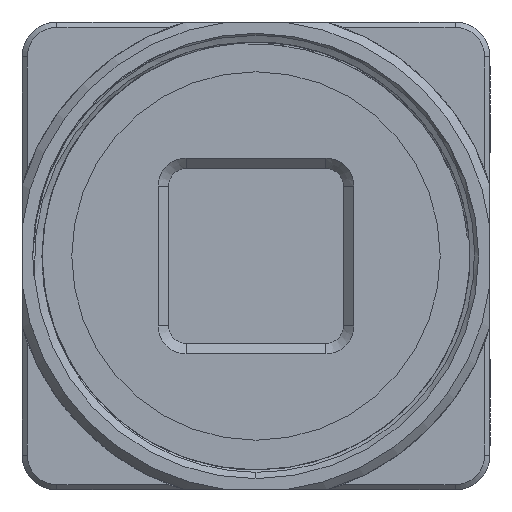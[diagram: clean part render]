
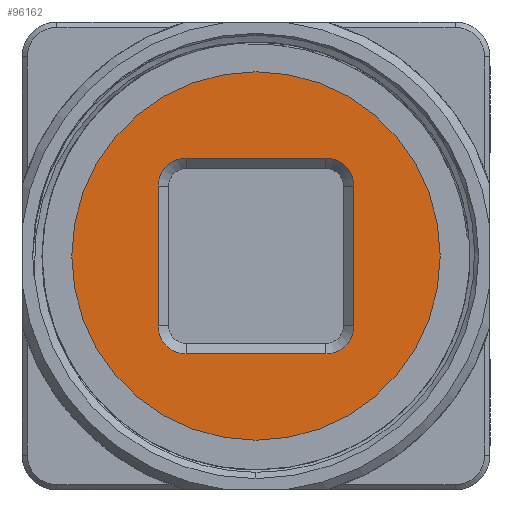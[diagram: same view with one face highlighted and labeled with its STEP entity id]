
A CAD part, front view. The second image highlights one B-rep face of the part: STEP entity #96162.
In plain terms, the highlighted planar face has unit normal (0, -1, 0).
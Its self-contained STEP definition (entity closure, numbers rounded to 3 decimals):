
#1266 = CIRCLE ( 'NONE', #103039, 1.6 ) ;
#2315 = AXIS2_PLACEMENT_3D ( 'NONE', #64695, #91915, #109449 ) ;
#3687 = VECTOR ( 'NONE', #6705, 1000. ) ;
#4219 = VERTEX_POINT ( 'NONE', #54388 ) ;
#6149 = LINE ( 'NONE', #99745, #67471 ) ;
#6268 = EDGE_CURVE ( 'NONE', #27583, #66752, #14510, .T. ) ;
#6422 = VECTOR ( 'NONE', #106423, 1000. ) ;
#6705 = DIRECTION ( 'NONE',  ( 1., 0., 0. ) ) ;
#6998 = CIRCLE ( 'NONE', #92220, 1.6 ) ;
#8875 = ORIENTED_EDGE ( 'NONE', *, *, #100132, .F. ) ;
#12325 = VERTEX_POINT ( 'NONE', #84675 ) ;
#12682 = PLANE ( 'NONE',  #89836 ) ;
#14371 = DIRECTION ( 'NONE',  ( 0., 0., -1. ) ) ;
#14510 = CIRCLE ( 'NONE', #40005, 1.6 ) ;
#14721 = VERTEX_POINT ( 'NONE', #86630 ) ;
#17920 = ORIENTED_EDGE ( 'NONE', *, *, #41329, .F. ) ;
#20125 = DIRECTION ( 'NONE',  ( 0., 0., -1. ) ) ;
#23545 = ORIENTED_EDGE ( 'NONE', *, *, #69799, .F. ) ;
#23835 = CARTESIAN_POINT ( 'NONE',  ( 0., 3.8, 0. ) ) ;
#24967 = DIRECTION ( 'NONE',  ( 0., -1., 0. ) ) ;
#25643 = CARTESIAN_POINT ( 'NONE',  ( -5.6, 3.8, 4. ) ) ;
#25660 = CARTESIAN_POINT ( 'NONE',  ( 5.6, 3.8, -4. ) ) ;
#25730 = ORIENTED_EDGE ( 'NONE', *, *, #43209, .F. ) ;
#26500 = CARTESIAN_POINT ( 'NONE',  ( 0., 3.8, 0. ) ) ;
#27414 = EDGE_LOOP ( 'NONE', ( #111833, #94259 ) ) ;
#27583 = VERTEX_POINT ( 'NONE', #97166 ) ;
#27997 = CARTESIAN_POINT ( 'NONE',  ( 4., 3.8, 5.6 ) ) ;
#33695 = ORIENTED_EDGE ( 'NONE', *, *, #6268, .F. ) ;
#34325 = CIRCLE ( 'NONE', #37969, 10.55 ) ;
#36213 = VERTEX_POINT ( 'NONE', #27997 ) ;
#37311 = CARTESIAN_POINT ( 'NONE',  ( 0., 3.8, 5.6 ) ) ;
#37800 = VERTEX_POINT ( 'NONE', #87459 ) ;
#37969 = AXIS2_PLACEMENT_3D ( 'NONE', #26500, #41834, #76476 ) ;
#39966 = ORIENTED_EDGE ( 'NONE', *, *, #95853, .F. ) ;
#40005 = AXIS2_PLACEMENT_3D ( 'NONE', #64668, #81678, #73742 ) ;
#41038 = DIRECTION ( 'NONE',  ( 0., 0., -1. ) ) ;
#41329 = EDGE_CURVE ( 'NONE', #14721, #62275, #1266, .T. ) ;
#41834 = DIRECTION ( 'NONE',  ( 0., -1., 0. ) ) ;
#42513 = CARTESIAN_POINT ( 'NONE',  ( -5.6, 3.8, -4. ) ) ;
#43209 = EDGE_CURVE ( 'NONE', #62275, #4219, #6149, .T. ) ;
#47344 = DIRECTION ( 'NONE',  ( 0., -1., 0. ) ) ;
#47606 = DIRECTION ( 'NONE',  ( 0., 0., 1. ) ) ;
#49512 = EDGE_CURVE ( 'NONE', #100247, #12325, #6998, .T. ) ;
#50434 = CIRCLE ( 'NONE', #59408, 10.55 ) ;
#54388 = CARTESIAN_POINT ( 'NONE',  ( 5.6, 3.8, 4. ) ) ;
#54868 = LINE ( 'NONE', #37311, #6422 ) ;
#54869 = EDGE_CURVE ( 'NONE', #37800, #71066, #34325, .T. ) ;
#55896 = VECTOR ( 'NONE', #14371, 1000. ) ;
#59408 = AXIS2_PLACEMENT_3D ( 'NONE', #23835, #24967, #68089 ) ;
#59979 = LINE ( 'NONE', #95213, #3687 ) ;
#62275 = VERTEX_POINT ( 'NONE', #25660 ) ;
#62508 = CARTESIAN_POINT ( 'NONE',  ( -4., 3.8, -4. ) ) ;
#64668 = CARTESIAN_POINT ( 'NONE',  ( -4., 3.8, 4. ) ) ;
#64695 = CARTESIAN_POINT ( 'NONE',  ( 4., 3.8, 4. ) ) ;
#65453 = FACE_OUTER_BOUND ( 'NONE', #27414, .T. ) ;
#66752 = VERTEX_POINT ( 'NONE', #25643 ) ;
#67404 = ORIENTED_EDGE ( 'NONE', *, *, #82512, .F. ) ;
#67471 = VECTOR ( 'NONE', #47606, 1000. ) ;
#68089 = DIRECTION ( 'NONE',  ( 0., 0., -1. ) ) ;
#68460 = ORIENTED_EDGE ( 'NONE', *, *, #49512, .F. ) ;
#69799 = EDGE_CURVE ( 'NONE', #66752, #100247, #92658, .T. ) ;
#71066 = VERTEX_POINT ( 'NONE', #110753 ) ;
#73742 = DIRECTION ( 'NONE',  ( 0., 0., -1. ) ) ;
#76476 = DIRECTION ( 'NONE',  ( 0., 0., -1. ) ) ;
#77344 = DIRECTION ( 'NONE',  ( 0., -1., 0. ) ) ;
#78476 = DIRECTION ( 'NONE',  ( 0., 0., -1. ) ) ;
#81678 = DIRECTION ( 'NONE',  ( 0., -1., 0. ) ) ;
#82484 = FACE_BOUND ( 'NONE', #95561, .T. ) ;
#82512 = EDGE_CURVE ( 'NONE', #12325, #14721, #59979, .T. ) ;
#83589 = CARTESIAN_POINT ( 'NONE',  ( -5.6, 3.8, 0. ) ) ;
#84675 = CARTESIAN_POINT ( 'NONE',  ( -4., 3.8, -5.6 ) ) ;
#86630 = CARTESIAN_POINT ( 'NONE',  ( 4., 3.8, -5.6 ) ) ;
#87459 = CARTESIAN_POINT ( 'NONE',  ( 0., 3.8, -10.55 ) ) ;
#89340 = CARTESIAN_POINT ( 'NONE',  ( 0., 3.8, 0. ) ) ;
#89836 = AXIS2_PLACEMENT_3D ( 'NONE', #89340, #47344, #20125 ) ;
#89947 = EDGE_CURVE ( 'NONE', #71066, #37800, #50434, .T. ) ;
#91915 = DIRECTION ( 'NONE',  ( 0., -1., 0. ) ) ;
#92220 = AXIS2_PLACEMENT_3D ( 'NONE', #62508, #77344, #78476 ) ;
#92658 = LINE ( 'NONE', #83589, #55896 ) ;
#94259 = ORIENTED_EDGE ( 'NONE', *, *, #89947, .T. ) ;
#95213 = CARTESIAN_POINT ( 'NONE',  ( 0., 3.8, -5.6 ) ) ;
#95561 = EDGE_LOOP ( 'NONE', ( #8875, #25730, #17920, #67404, #68460, #23545, #33695, #39966 ) ) ;
#95853 = EDGE_CURVE ( 'NONE', #36213, #27583, #54868, .T. ) ;
#96162 = ADVANCED_FACE ( 'NONE', ( #82484, #65453 ), #12682, .T. ) ;
#97166 = CARTESIAN_POINT ( 'NONE',  ( -4., 3.8, 5.6 ) ) ;
#99745 = CARTESIAN_POINT ( 'NONE',  ( 5.6, 3.8, 0. ) ) ;
#100132 = EDGE_CURVE ( 'NONE', #4219, #36213, #103865, .T. ) ;
#100247 = VERTEX_POINT ( 'NONE', #42513 ) ;
#103039 = AXIS2_PLACEMENT_3D ( 'NONE', #106306, #109665, #41038 ) ;
#103865 = CIRCLE ( 'NONE', #2315, 1.6 ) ;
#106306 = CARTESIAN_POINT ( 'NONE',  ( 4., 3.8, -4. ) ) ;
#106423 = DIRECTION ( 'NONE',  ( -1., 0., 0. ) ) ;
#109449 = DIRECTION ( 'NONE',  ( 0., 0., -1. ) ) ;
#109665 = DIRECTION ( 'NONE',  ( 0., -1., 0. ) ) ;
#110753 = CARTESIAN_POINT ( 'NONE',  ( 0., 3.8, 10.55 ) ) ;
#111833 = ORIENTED_EDGE ( 'NONE', *, *, #54869, .T. ) ;
